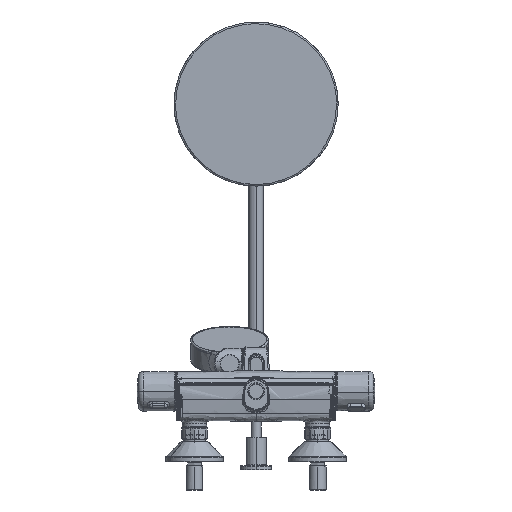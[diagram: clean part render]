
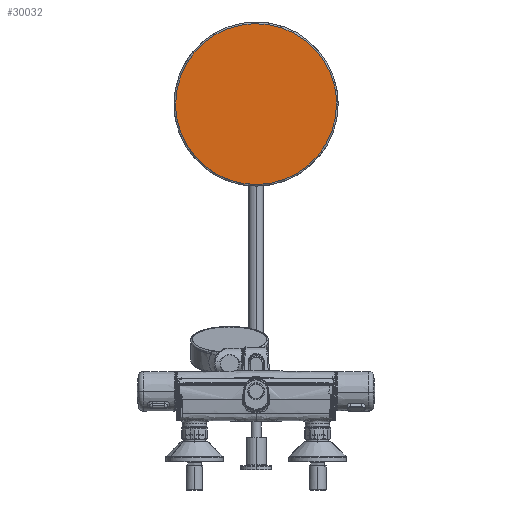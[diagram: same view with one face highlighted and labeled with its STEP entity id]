
A CAD part, front view. The second image highlights one B-rep face of the part: STEP entity #30032.
In plain terms, the highlighted planar face has unit normal (0, -1, 0).
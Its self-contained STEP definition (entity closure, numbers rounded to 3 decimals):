
#177 = CARTESIAN_POINT ( 'NONE',  ( 148.709, 1151.133, 1380.748 ) ) ;
#661 = CARTESIAN_POINT ( 'NONE',  ( 158.624, 1151.133, 1337.32 ) ) ;
#2803 = CARTESIAN_POINT ( 'NONE',  ( 168.789, 1151.133, 1440.527 ) ) ;
#3030 = CARTESIAN_POINT ( 'NONE',  ( 253.123, 1151.133, 1478.749 ) ) ;
#3209 = EDGE_CURVE ( 'NONE', #26211, #65857, #45381, .T. ) ;
#3472 = CARTESIAN_POINT ( 'NONE',  ( 240.295, 1151.133, 1478.749 ) ) ;
#3717 = CARTESIAN_POINT ( 'NONE',  ( 339.704, 1151.133, 1412.326 ) ) ;
#3851 = CARTESIAN_POINT ( 'NONE',  ( 331.757, 1151.133, 1331.636 ) ) ;
#4540 = CARTESIAN_POINT ( 'NONE',  ( 240.295, 1151.133, 1282.748 ) ) ;
#8095 = CARTESIAN_POINT ( 'NONE',  ( 215.132, 1151.133, 1473.743 ) ) ;
#8306 = CARTESIAN_POINT ( 'NONE',  ( 306.488, 1151.133, 1458.669 ) ) ;
#8545 = CARTESIAN_POINT ( 'NONE',  ( 203.28, 1151.133, 1468.834 ) ) ;
#8784 = CARTESIAN_POINT ( 'NONE',  ( 278.286, 1151.133, 1473.743 ) ) ;
#8998 = CARTESIAN_POINT ( 'NONE',  ( 344.709, 1151.133, 1387.163 ) ) ;
#9122 = CARTESIAN_POINT ( 'NONE',  ( 181.948, 1151.133, 1306.916 ) ) ;
#9361 = CARTESIAN_POINT ( 'NONE',  ( 344.078, 1151.133, 1367.92 ) ) ;
#9756 = EDGE_LOOP ( 'NONE', ( #67658, #57974 ) ) ;
#10046 = CARTESIAN_POINT ( 'NONE',  ( 341.575, 1151.133, 1355.339 ) ) ;
#13373 = CARTESIAN_POINT ( 'NONE',  ( 151.844, 1151.133, 1406.158 ) ) ;
#13602 = CARTESIAN_POINT ( 'NONE',  ( 344.078, 1151.133, 1393.576 ) ) ;
#13832 = CARTESIAN_POINT ( 'NONE',  ( 181.948, 1151.133, 1454.58 ) ) ;
#19148 = CARTESIAN_POINT ( 'NONE',  ( 272.119, 1151.133, 1475.614 ) ) ;
#19515 = CARTESIAN_POINT ( 'NONE',  ( 344.709, 1151.133, 1380.748 ) ) ;
#19745 = CARTESIAN_POINT ( 'NONE',  ( 259.537, 1151.133, 1283.38 ) ) ;
#21990 = B_SPLINE_CURVE_WITH_KNOTS ( 'NONE', 3,
 ( #19515, #57267, #9361, #10046, #46886, #46441, #3851, #67880, #62338, #51256, #25495, #51738, #41351, #67625, #36066, #19745, #25724, #4540, #62569, #30988, #56321, #66944, #35351, #40655, #9122, #45962, #25040, #57948, #661, #42277, #31439, #52880, #68336, #177 ),
 .UNSPECIFIED., .F., .F.,
 ( 4, 2, 2, 2, 2, 2, 2, 2, 2, 2, 2, 2, 2, 2, 2, 2, 4 ),
 ( 0., 0.031, 0.063, 0.094, 0.125, 0.156, 0.188, 0.219, 0.25, 0.281, 0.313, 0.344, 0.375, 0.406, 0.438, 0.469, 0.5 ),
 .UNSPECIFIED. ) ;
#23218 = CARTESIAN_POINT ( 'NONE',  ( 344.709, 1151.133, 1380.748 ) ) ;
#23987 = CARTESIAN_POINT ( 'NONE',  ( 259.537, 1151.133, 1478.117 ) ) ;
#25040 = CARTESIAN_POINT ( 'NONE',  ( 168.789, 1151.133, 1320.969 ) ) ;
#25188 = AXIS2_PLACEMENT_3D ( 'NONE', #30630, #62222, #67512 ) ;
#25495 = CARTESIAN_POINT ( 'NONE',  ( 306.488, 1151.133, 1302.828 ) ) ;
#25724 = CARTESIAN_POINT ( 'NONE',  ( 253.123, 1151.133, 1282.748 ) ) ;
#26211 = VERTEX_POINT ( 'NONE', #36585 ) ;
#29271 = CARTESIAN_POINT ( 'NONE',  ( 320.541, 1151.133, 1445.51 ) ) ;
#29701 = CARTESIAN_POINT ( 'NONE',  ( 149.341, 1151.133, 1393.576 ) ) ;
#30032 = ADVANCED_FACE ( 'NONE', ( #38752 ), #51381, .F. ) ;
#30532 = EDGE_CURVE ( 'NONE', #65857, #26211, #21990, .T. ) ;
#30630 = CARTESIAN_POINT ( 'NONE',  ( 246.709, 1151.133, 1380.748 ) ) ;
#30988 = CARTESIAN_POINT ( 'NONE',  ( 221.3, 1151.133, 1285.883 ) ) ;
#31439 = CARTESIAN_POINT ( 'NONE',  ( 151.844, 1151.133, 1355.339 ) ) ;
#35007 = CARTESIAN_POINT ( 'NONE',  ( 197.597, 1151.133, 1465.796 ) ) ;
#35242 = CARTESIAN_POINT ( 'NONE',  ( 324.63, 1151.133, 1440.527 ) ) ;
#35351 = CARTESIAN_POINT ( 'NONE',  ( 197.597, 1151.133, 1295.701 ) ) ;
#36066 = CARTESIAN_POINT ( 'NONE',  ( 272.119, 1151.133, 1285.883 ) ) ;
#36585 = CARTESIAN_POINT ( 'NONE',  ( 148.709, 1151.133, 1380.748 ) ) ;
#38752 = FACE_OUTER_BOUND ( 'NONE', #9756, .T. ) ;
#40278 = CARTESIAN_POINT ( 'NONE',  ( 334.795, 1151.133, 1424.177 ) ) ;
#40507 = CARTESIAN_POINT ( 'NONE',  ( 341.575, 1151.133, 1406.158 ) ) ;
#40655 = CARTESIAN_POINT ( 'NONE',  ( 186.93, 1151.133, 1302.828 ) ) ;
#41351 = CARTESIAN_POINT ( 'NONE',  ( 290.138, 1151.133, 1292.663 ) ) ;
#42277 = CARTESIAN_POINT ( 'NONE',  ( 153.714, 1151.133, 1349.171 ) ) ;
#45363 = CARTESIAN_POINT ( 'NONE',  ( 221.3, 1151.133, 1475.614 ) ) ;
#45381 = B_SPLINE_CURVE_WITH_KNOTS ( 'NONE', 3,
 ( #55737, #55950, #29701, #13373, #66143, #55516, #66804, #2803, #56424, #13832, #60601, #35007, #8545, #8095, #45363, #50205, #3472, #3030, #23987, #19148, #8784, #60812, #50678, #8306, #50895, #29271, #35242, #45601, #40278, #3717, #40507, #13602, #8998, #45843 ),
 .UNSPECIFIED., .F., .F.,
 ( 4, 2, 2, 2, 2, 2, 2, 2, 2, 2, 2, 2, 2, 2, 2, 2, 4 ),
 ( 0.5, 0.531, 0.563, 0.594, 0.625, 0.656, 0.688, 0.719, 0.75, 0.781, 0.813, 0.844, 0.875, 0.906, 0.938, 0.969, 1. ),
 .UNSPECIFIED. ) ;
#45601 = CARTESIAN_POINT ( 'NONE',  ( 331.757, 1151.133, 1429.861 ) ) ;
#45843 = CARTESIAN_POINT ( 'NONE',  ( 344.709, 1151.133, 1380.748 ) ) ;
#45962 = CARTESIAN_POINT ( 'NONE',  ( 172.877, 1151.133, 1315.987 ) ) ;
#46441 = CARTESIAN_POINT ( 'NONE',  ( 334.795, 1151.133, 1337.32 ) ) ;
#46886 = CARTESIAN_POINT ( 'NONE',  ( 339.704, 1151.133, 1349.171 ) ) ;
#50205 = CARTESIAN_POINT ( 'NONE',  ( 233.881, 1151.133, 1478.117 ) ) ;
#50678 = CARTESIAN_POINT ( 'NONE',  ( 295.822, 1151.133, 1465.796 ) ) ;
#50895 = CARTESIAN_POINT ( 'NONE',  ( 311.47, 1151.133, 1454.58 ) ) ;
#51256 = CARTESIAN_POINT ( 'NONE',  ( 311.47, 1151.133, 1306.916 ) ) ;
#51381 = PLANE ( 'NONE',  #25188 ) ;
#51738 = CARTESIAN_POINT ( 'NONE',  ( 295.822, 1151.133, 1295.701 ) ) ;
#52880 = CARTESIAN_POINT ( 'NONE',  ( 149.341, 1151.133, 1367.92 ) ) ;
#55516 = CARTESIAN_POINT ( 'NONE',  ( 158.624, 1151.133, 1424.177 ) ) ;
#55737 = CARTESIAN_POINT ( 'NONE',  ( 148.709, 1151.133, 1380.748 ) ) ;
#55950 = CARTESIAN_POINT ( 'NONE',  ( 148.709, 1151.133, 1387.163 ) ) ;
#56321 = CARTESIAN_POINT ( 'NONE',  ( 215.132, 1151.133, 1287.754 ) ) ;
#56424 = CARTESIAN_POINT ( 'NONE',  ( 172.877, 1151.133, 1445.51 ) ) ;
#57267 = CARTESIAN_POINT ( 'NONE',  ( 344.709, 1151.133, 1374.334 ) ) ;
#57948 = CARTESIAN_POINT ( 'NONE',  ( 161.662, 1151.133, 1331.636 ) ) ;
#57974 = ORIENTED_EDGE ( 'NONE', *, *, #3209, .F. ) ;
#60601 = CARTESIAN_POINT ( 'NONE',  ( 186.93, 1151.133, 1458.669 ) ) ;
#60812 = CARTESIAN_POINT ( 'NONE',  ( 290.138, 1151.133, 1468.834 ) ) ;
#62222 = DIRECTION ( 'NONE',  ( 0., 1., 0. ) ) ;
#62338 = CARTESIAN_POINT ( 'NONE',  ( 320.541, 1151.133, 1315.987 ) ) ;
#62569 = CARTESIAN_POINT ( 'NONE',  ( 233.881, 1151.133, 1283.38 ) ) ;
#65857 = VERTEX_POINT ( 'NONE', #23218 ) ;
#66143 = CARTESIAN_POINT ( 'NONE',  ( 153.714, 1151.133, 1412.326 ) ) ;
#66804 = CARTESIAN_POINT ( 'NONE',  ( 161.662, 1151.133, 1429.861 ) ) ;
#66944 = CARTESIAN_POINT ( 'NONE',  ( 203.28, 1151.133, 1292.663 ) ) ;
#67512 = DIRECTION ( 'NONE',  ( 1., 0., 0. ) ) ;
#67625 = CARTESIAN_POINT ( 'NONE',  ( 278.286, 1151.133, 1287.754 ) ) ;
#67658 = ORIENTED_EDGE ( 'NONE', *, *, #30532, .F. ) ;
#67880 = CARTESIAN_POINT ( 'NONE',  ( 324.63, 1151.133, 1320.969 ) ) ;
#68336 = CARTESIAN_POINT ( 'NONE',  ( 148.709, 1151.133, 1374.334 ) ) ;
